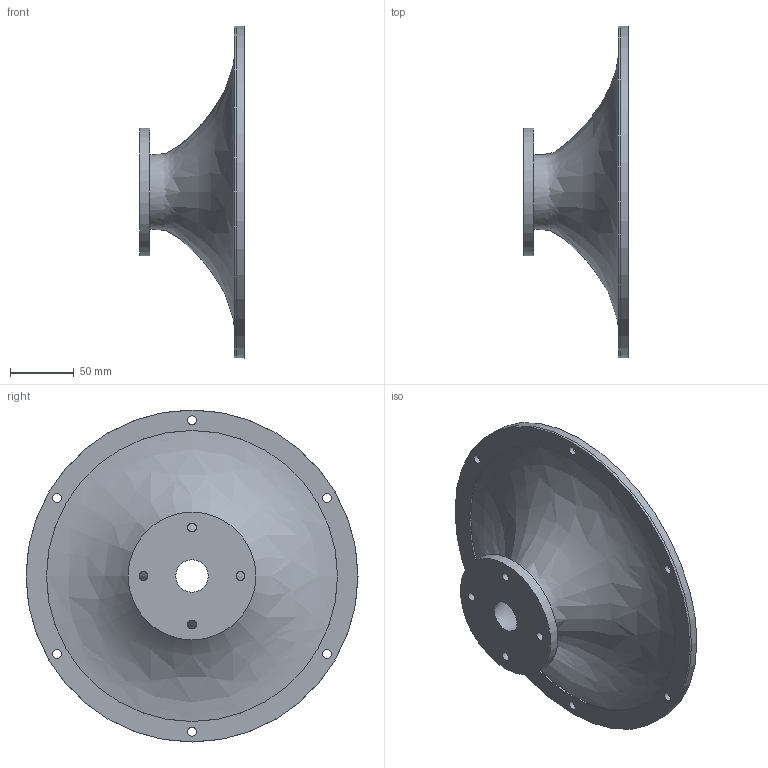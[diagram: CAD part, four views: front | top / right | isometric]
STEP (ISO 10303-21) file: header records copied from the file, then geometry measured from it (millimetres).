
FILE_DESCRIPTION(/* description */ (''),/* implementation_level */ '2;1');
FILE_NAME(/* name */ 'D:/Horns/ST260B/ST260B v2.step',/* time_stamp */ '2021-08-14T08:23:49+02:00',/* author */ (''),/* organization */ (''),/* preprocessor_version */ 'ST-DEVELOPER v18.1',/* originating_system */ 'Autodesk Translation Framework v10.9.0.1377',/* authorisation */ '');
FILE_SCHEMA (('AUTOMOTIVE_DESIGN { 1 0 10303 214 3 1 1 }'));
Length unit declared in the file: millimetre
Products named in the file (1): ST260B
Bounding box: 81.98 x 260.02 x 260.02 mm (x, y, z)
Volume: 442399.1 mm3; surface area: 143605 mm2
Topology: 1 solids, 1 shells, 32 faces, 75 edges, 52 vertices
Faces by surface type: cylinder 19, plane 9, cone 2, bspline 2
Full cylindrical faces by diameter (mm): 7 x10, 10.6 x6, 100 x1, 227.919 x1, 259.919 x1
Entity records: 7007 total; most frequent: CARTESIAN_POINT 6174, DIRECTION 163, ORIENTED_EDGE 150, EDGE_CURVE 75, AXIS2_PLACEMENT_3D 71, EDGE_LOOP 61, VERTEX_POINT 52, CIRCLE 40
